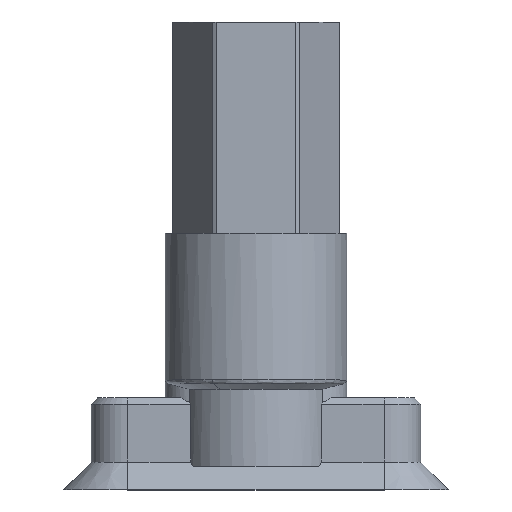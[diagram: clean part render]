
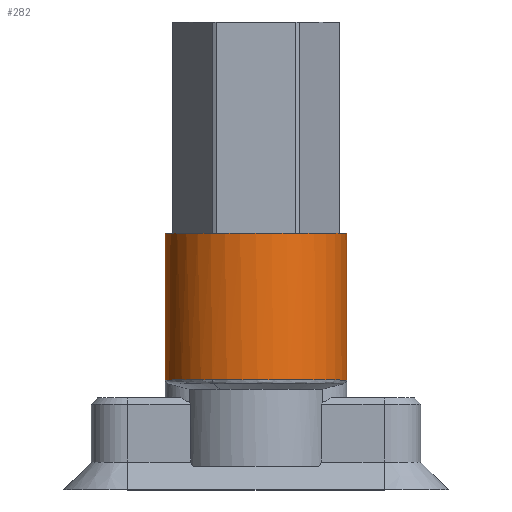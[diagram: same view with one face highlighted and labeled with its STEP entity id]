
A CAD part, top view. The second image highlights one B-rep face of the part: STEP entity #282.
In plain terms, the highlighted cylindrical face has radius 4.25 mm (diameter 8.5 mm), a partial arc.
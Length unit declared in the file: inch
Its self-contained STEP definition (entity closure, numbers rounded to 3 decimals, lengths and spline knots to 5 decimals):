
#113 = CARTESIAN_POINT ( 'NONE',  ( -0.16732, 0., 0.30315 ) ) ;
#282 = ADVANCED_FACE ( 'NONE', ( #1488 ), #2502, .T. ) ;
#328 = CARTESIAN_POINT ( 'NONE',  ( 0.16732, 0., 0.03292 ) ) ;
#355 = EDGE_CURVE ( 'NONE', #3307, #2412, #1022, .T. ) ;
#365 = AXIS2_PLACEMENT_3D ( 'NONE', #1339, #1370, #3098 ) ;
#385 = ORIENTED_EDGE ( 'NONE', *, *, #355, .F. ) ;
#426 = CARTESIAN_POINT ( 'NONE',  ( 0.08022, 0.14684, 0.03292 ) ) ;
#460 = DIRECTION ( 'NONE',  ( 0., 0., -1. ) ) ;
#469 = DIRECTION ( 'NONE',  ( 0., 0., -1. ) ) ;
#566 = EDGE_CURVE ( 'NONE', #2706, #1998, #1470, .T. ) ;
#588 = CARTESIAN_POINT ( 'NONE',  ( 0., 0., 0.03292 ) ) ;
#845 = DIRECTION ( 'NONE',  ( -0.479, -0.878, 0. ) ) ;
#912 = ORIENTED_EDGE ( 'NONE', *, *, #3259, .F. ) ;
#958 = VERTEX_POINT ( 'NONE', #328 ) ;
#1022 = CIRCLE ( 'NONE', #2881, 0.16732 ) ;
#1048 = DIRECTION ( 'NONE',  ( 0., 0., -1. ) ) ;
#1055 = ORIENTED_EDGE ( 'NONE', *, *, #566, .T. ) ;
#1173 = DIRECTION ( 'NONE',  ( 0., 0., -1. ) ) ;
#1181 = EDGE_CURVE ( 'NONE', #1998, #958, #2471, .T. ) ;
#1339 = CARTESIAN_POINT ( 'NONE',  ( 0., 0., 0.30315 ) ) ;
#1370 = DIRECTION ( 'NONE',  ( 0., 0., -1. ) ) ;
#1405 = CARTESIAN_POINT ( 'NONE',  ( -0.16732, 0., 0.30315 ) ) ;
#1463 = CARTESIAN_POINT ( 'NONE',  ( 0., 0., 0.30315 ) ) ;
#1470 = CIRCLE ( 'NONE', #2213, 0.16732 ) ;
#1488 = FACE_OUTER_BOUND ( 'NONE', #1553, .T. ) ;
#1493 = CIRCLE ( 'NONE', #1759, 0.16732 ) ;
#1500 = VECTOR ( 'NONE', #1173, 39.37008 ) ;
#1553 = EDGE_LOOP ( 'NONE', ( #1055, #1786, #912, #385, #2518 ) ) ;
#1584 = VECTOR ( 'NONE', #460, 39.37008 ) ;
#1759 = AXIS2_PLACEMENT_3D ( 'NONE', #588, #1048, #2045 ) ;
#1786 = ORIENTED_EDGE ( 'NONE', *, *, #1181, .T. ) ;
#1998 = VERTEX_POINT ( 'NONE', #2526 ) ;
#2045 = DIRECTION ( 'NONE',  ( 0.479, 0.878, 0. ) ) ;
#2213 = AXIS2_PLACEMENT_3D ( 'NONE', #1463, #469, #2729 ) ;
#2328 = CARTESIAN_POINT ( 'NONE',  ( -0.16732, 0., 0.03292 ) ) ;
#2412 = VERTEX_POINT ( 'NONE', #426 ) ;
#2420 = LINE ( 'NONE', #113, #1500 ) ;
#2471 = LINE ( 'NONE', #2538, #1584 ) ;
#2502 = CYLINDRICAL_SURFACE ( 'NONE', #365, 0.16732 ) ;
#2518 = ORIENTED_EDGE ( 'NONE', *, *, #2708, .F. ) ;
#2526 = CARTESIAN_POINT ( 'NONE',  ( 0.16732, 0., 0.30315 ) ) ;
#2538 = CARTESIAN_POINT ( 'NONE',  ( 0.16732, 0., 0.30315 ) ) ;
#2615 = DIRECTION ( 'NONE',  ( 0., 0., -1. ) ) ;
#2706 = VERTEX_POINT ( 'NONE', #1405 ) ;
#2708 = EDGE_CURVE ( 'NONE', #2706, #3307, #2420, .T. ) ;
#2729 = DIRECTION ( 'NONE',  ( -1., 0., 0. ) ) ;
#2863 = CARTESIAN_POINT ( 'NONE',  ( 0., 0., 0.03292 ) ) ;
#2881 = AXIS2_PLACEMENT_3D ( 'NONE', #2863, #2615, #845 ) ;
#3098 = DIRECTION ( 'NONE',  ( -1., 0., 0. ) ) ;
#3259 = EDGE_CURVE ( 'NONE', #2412, #958, #1493, .T. ) ;
#3307 = VERTEX_POINT ( 'NONE', #2328 ) ;
